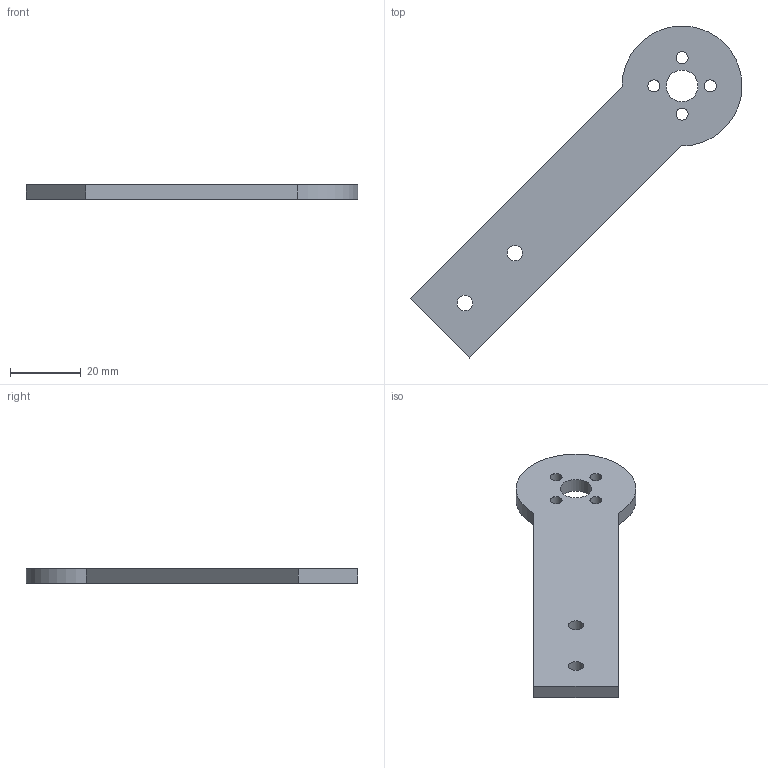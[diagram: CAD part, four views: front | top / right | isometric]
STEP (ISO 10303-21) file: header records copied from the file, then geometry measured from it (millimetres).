
FILE_DESCRIPTION(('FreeCAD Model'),'2;1');
FILE_NAME('Open CASCADE Shape Model','2026-10-26T11:51:15',('FreeCAD'),( 'FreeCAD'),'Open CASCADE STEP processor 7.8','FreeCAD','Unknown');
FILE_SCHEMA(('AUTOMOTIVE_DESIGN { 1 0 10303 214 1 1 1 1 }'));
Length unit declared in the file: millimetre
Products named in the file (1): Open CASCADE STEP translator 7.8 3
Bounding box: 94.05 x 94.05 x 4 mm (x, y, z)
Volume: 10938.4 mm3; surface area: 6960.1 mm2
Topology: 1 solids, 1 shells, 13 faces, 35 edges, 24 vertices
Faces by surface type: cylinder 8, plane 5
Full cylindrical faces by diameter (mm): 3.4 x4, 4.4 x2, 9 x1
Entity records: 461 total; most frequent: DIRECTION 81, CARTESIAN_POINT 73, ORIENTED_EDGE 70, EDGE_CURVE 35, AXIS2_PLACEMENT_3D 32, FACE_BOUND 27, EDGE_LOOP 27, VERTEX_POINT 24
